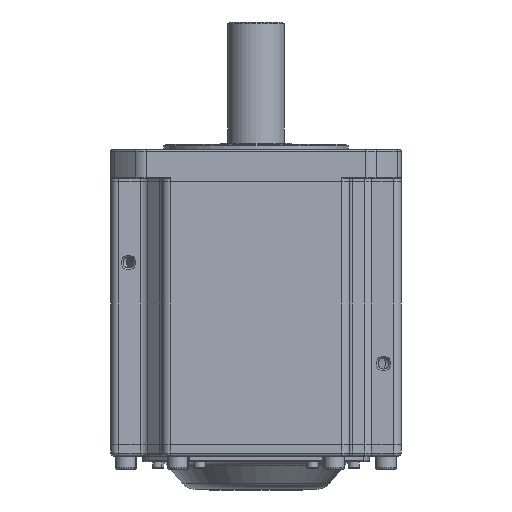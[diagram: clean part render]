
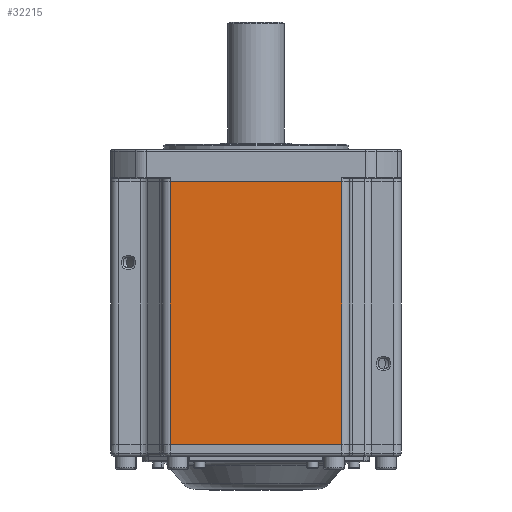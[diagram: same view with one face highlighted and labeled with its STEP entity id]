
A CAD part, front view. The second image highlights one B-rep face of the part: STEP entity #32215.
In plain terms, the highlighted planar face has unit normal (0, -1, 0).
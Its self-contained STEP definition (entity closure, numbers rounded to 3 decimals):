
#2029 = FACE_OUTER_BOUND ( 'NONE', #46765, .T. ) ;
#3437 = DIRECTION ( 'NONE',  ( 1., 0., 0. ) ) ;
#5355 = CARTESIAN_POINT ( 'NONE',  ( -52.974, -89.007, 103.327 ) ) ;
#8430 = CARTESIAN_POINT ( 'NONE',  ( 58.026, -89.007, 103.327 ) ) ;
#10093 = ORIENTED_EDGE ( 'NONE', *, *, #32111, .T. ) ;
#10608 = LINE ( 'NONE', #61958, #53138 ) ;
#15115 = LINE ( 'NONE', #57013, #47637 ) ;
#16508 = VECTOR ( 'NONE', #63944, 1000. ) ;
#16884 = VERTEX_POINT ( 'NONE', #63741 ) ;
#17281 = LINE ( 'NONE', #8430, #16508 ) ;
#17693 = VERTEX_POINT ( 'NONE', #35971 ) ;
#18543 = CARTESIAN_POINT ( 'NONE',  ( 58.026, -89.007, -896.673 ) ) ;
#22231 = DIRECTION ( 'NONE',  ( 0., 0., 1. ) ) ;
#26871 = EDGE_CURVE ( 'NONE', #46554, #16884, #27917, .T. ) ;
#27917 = LINE ( 'NONE', #47774, #54927 ) ;
#30826 = EDGE_CURVE ( 'NONE', #17693, #46554, #17281, .T. ) ;
#32111 = EDGE_CURVE ( 'NONE', #47949, #17693, #10608, .T. ) ;
#32215 = ADVANCED_FACE ( 'NONE', ( #2029 ), #52916, .F. ) ;
#33475 = DIRECTION ( 'NONE',  ( 0., 0., -1. ) ) ;
#35971 = CARTESIAN_POINT ( 'NONE',  ( 53.026, -89.007, 103.327 ) ) ;
#42122 = ORIENTED_EDGE ( 'NONE', *, *, #30826, .T. ) ;
#42487 = EDGE_CURVE ( 'NONE', #16884, #47949, #15115, .T. ) ;
#46554 = VERTEX_POINT ( 'NONE', #5355 ) ;
#46765 = EDGE_LOOP ( 'NONE', ( #50732, #59885, #10093, #42122 ) ) ;
#47637 = VECTOR ( 'NONE', #3437, 1000. ) ;
#47706 = DIRECTION ( 'NONE',  ( 0., 1., 0. ) ) ;
#47774 = CARTESIAN_POINT ( 'NONE',  ( -52.974, -89.007, -896.673 ) ) ;
#47949 = VERTEX_POINT ( 'NONE', #62358 ) ;
#50732 = ORIENTED_EDGE ( 'NONE', *, *, #26871, .T. ) ;
#52916 = PLANE ( 'NONE',  #61444 ) ;
#53138 = VECTOR ( 'NONE', #22231, 1000. ) ;
#54927 = VECTOR ( 'NONE', #62440, 1000. ) ;
#57013 = CARTESIAN_POINT ( 'NONE',  ( -154.318, -89.007, -59.273 ) ) ;
#59885 = ORIENTED_EDGE ( 'NONE', *, *, #42487, .T. ) ;
#61444 = AXIS2_PLACEMENT_3D ( 'NONE', #18543, #47706, #33475 ) ;
#61958 = CARTESIAN_POINT ( 'NONE',  ( 53.026, -89.007, -896.673 ) ) ;
#62358 = CARTESIAN_POINT ( 'NONE',  ( 53.026, -89.007, -59.273 ) ) ;
#62440 = DIRECTION ( 'NONE',  ( 0., 0., -1. ) ) ;
#63741 = CARTESIAN_POINT ( 'NONE',  ( -52.974, -89.007, -59.273 ) ) ;
#63944 = DIRECTION ( 'NONE',  ( -1., 0., 0. ) ) ;
